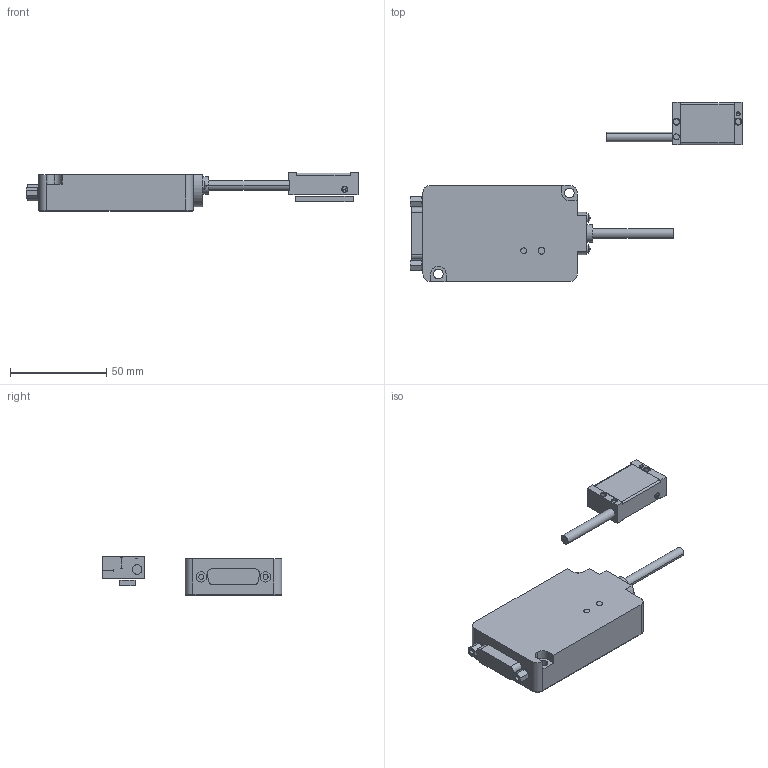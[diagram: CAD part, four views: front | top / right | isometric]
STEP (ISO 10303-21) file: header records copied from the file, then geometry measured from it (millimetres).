
FILE_DESCRIPTION(('Creo Elements/Direct Modeling STEP Export'),'2;1');
FILE_NAME('ST36-10.stp','2017-10-11T15:32:06',(''),(''),'Creo Elements/Direct Modeling STEP processor for AP214 (Solid Model)','Creo Elements/Direct Modeling 18.1B 29-Sep-2012 (C) Parametric Technology GmbH','');
FILE_SCHEMA(('AUTOMOTIVE_DESIGN { 1 0 10303 214 1 1 1 1 }'));
Length unit declared in the file: millimetre
Products named in the file (4): DetectorHead; IFbox; Scale_10; ST36-10
Assembly tree (3 placements, depth 2):
  ST36-10
    Scale_10
    IFbox
    DetectorHead
Bounding box: 172.2 x 93 x 19.9 mm (x, y, z)
Volume: 88710 mm3; surface area: 19381.4 mm2
Topology: 3 solids, 5 shells, 267 faces, 634 edges, 399 vertices
Faces by surface type: plane 167, cylinder 62, cone 28, torus 8, bspline 2
Entity records: 8261 total; most frequent: CARTESIAN_POINT 1420, ORIENTED_EDGE 1268, DIRECTION 1212, EDGE_CURVE 634, VECTOR 408, LINE 408, AXIS2_PLACEMENT_3D 402, VERTEX_POINT 399
